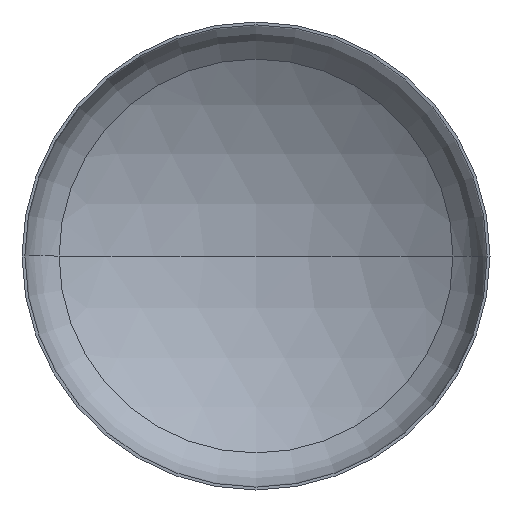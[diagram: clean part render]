
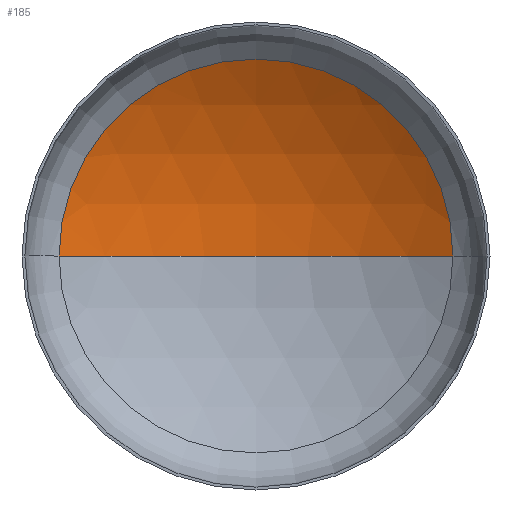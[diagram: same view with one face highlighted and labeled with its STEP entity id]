
A CAD part, front view. The second image highlights one B-rep face of the part: STEP entity #185.
In plain terms, the highlighted spherical face has radius 4000 mm.
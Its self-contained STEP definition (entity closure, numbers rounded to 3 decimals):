
#28 = EDGE_LOOP ( 'NONE', ( #410, #171, #127 ) ) ;
#41 = AXIS2_PLACEMENT_3D ( 'NONE', #234, #271, #190 ) ;
#43 = AXIS2_PLACEMENT_3D ( 'NONE', #270, #239, #238 ) ;
#44 = AXIS2_PLACEMENT_3D ( 'NONE', #219, #251, #250 ) ;
#48 = AXIS2_PLACEMENT_3D ( 'NONE', #177, #347, #194 ) ;
#53 = VERTEX_POINT ( 'NONE', #254 ) ;
#60 = CIRCLE ( 'NONE', #48, 2104.025 ) ;
#119 = VERTEX_POINT ( 'NONE', #296 ) ;
#127 = ORIENTED_EDGE ( 'NONE', *, *, #150, .T. ) ;
#150 = EDGE_CURVE ( 'NONE', #53, #119, #60, .T. ) ;
#160 = VERTEX_POINT ( 'NONE', #371 ) ;
#161 = EDGE_CURVE ( 'NONE', #160, #53, #318, .T. ) ;
#171 = ORIENTED_EDGE ( 'NONE', *, *, #161, .T. ) ;
#177 = CARTESIAN_POINT ( 'NONE',  ( 0., 754.87, 0. ) ) ;
#182 = EDGE_CURVE ( 'NONE', #160, #119, #312, .T. ) ;
#185 = ADVANCED_FACE ( 'NONE', ( #246 ), #367, .F. ) ;
#190 = DIRECTION ( 'NONE',  ( -1., 0., 0. ) ) ;
#194 = DIRECTION ( 'NONE',  ( 1., 0., 0. ) ) ;
#219 = CARTESIAN_POINT ( 'NONE',  ( 0., -2647.053, 0. ) ) ;
#234 = CARTESIAN_POINT ( 'NONE',  ( 0., -2647.053, 0. ) ) ;
#238 = DIRECTION ( 'NONE',  ( 1., 0., 0. ) ) ;
#239 = DIRECTION ( 'NONE',  ( 0., 0., 1. ) ) ;
#246 = FACE_OUTER_BOUND ( 'NONE', #28, .T. ) ;
#250 = DIRECTION ( 'NONE',  ( -1., 0., 0. ) ) ;
#251 = DIRECTION ( 'NONE',  ( 0., 0., -1. ) ) ;
#254 = CARTESIAN_POINT ( 'NONE',  ( 2104.025, 754.87, 0. ) ) ;
#270 = CARTESIAN_POINT ( 'NONE',  ( 0., -2647.053, 0. ) ) ;
#271 = DIRECTION ( 'NONE',  ( 0., 0., -1. ) ) ;
#296 = CARTESIAN_POINT ( 'NONE',  ( -2104.025, 754.87, 0. ) ) ;
#312 = CIRCLE ( 'NONE', #43, 4000. ) ;
#318 = CIRCLE ( 'NONE', #44, 4000. ) ;
#347 = DIRECTION ( 'NONE',  ( 0., -1., 0. ) ) ;
#367 = SPHERICAL_SURFACE ( 'NONE', #41, 4000. ) ;
#371 = CARTESIAN_POINT ( 'NONE',  ( 0., 1352.947, 0. ) ) ;
#410 = ORIENTED_EDGE ( 'NONE', *, *, #182, .F. ) ;
